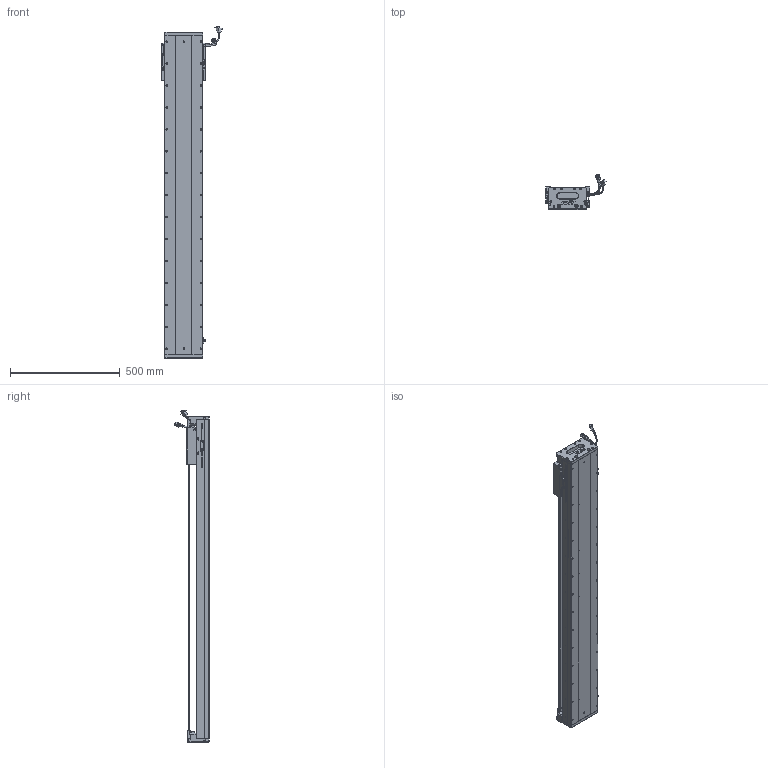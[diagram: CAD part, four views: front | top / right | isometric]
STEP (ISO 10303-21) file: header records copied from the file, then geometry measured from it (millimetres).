
FILE_DESCRIPTION (( 'STEP AP203' ), '1' );
FILE_NAME ('Z2-RY170D-1-L500-B-K.SLDASM_1200.step', '2021-05-17T09:07:46', ( '盈信电脑' ), ( '东莞市道滘镇水果街19号' ), 'SwSTEP 2.0', 'SolidWorks 2016', '' );
FILE_SCHEMA (( 'CONFIG_CONTROL_DESIGN' ));
Length unit declared in the file: millimetre
Products named in the file (36): Z-170詩湍傷裔啣; SCALE-Part-2; SCREW-M1.7-1; Z2-RY170臏賑輸(21遴); PSLH080_PSLF2; Z-RY170詩湍奻揤裔; 覜茼ん672; SEAL-Part-1; 080黍杅芛假蚾釱21遴; Z2-RY170-L500耀郪菁釱_1200; 140蚥薯蝶輸; 170-Z-臏賑輸盄裔(21遴); HARNESS-Part-2; HARNESS-Part-1; HARNESS; SCREW-M1.6-3; SCREW-M1.7; PBU_SHEET; LABEL-Part-1; SCALE-Part-1; Z2-RY170D-1-L500-B-K.SLDASM_1200; HOLDER0; SCREW-M1.6-1; SCALE; COVER; Z2-RY170-L500詩湍145mm遵_1200; LABEL; RY170直线电机感应器672光电感应片; SHIELDPLATE; 榋妏寠巭燃_暯_M2_2; COVER-Part-1; SCREW-M1.6-2; Z-RY170詩湍狟揤裔; SCREW-M1.6; 140雄赽晤鎢ん堤盄; SEAL
Assembly tree (41 placements, depth 4):
  Z2-RY170D-1-L500-B-K.SLDASM_1200
    Z2-RY170-L500耀郪菁釱_1200
    RY170直线电机感应器672光电感应片
    Z2-RY170臏賑輸(21遴)
    覜茼ん672  x3
    PSLH080_PSLF2
      SCALE
        SCALE-Part-1
        SCALE-Part-2
      HARNESS
        HARNESS-Part-1
        HARNESS-Part-2
      LABEL
        LABEL-Part-1
      COVER
        COVER-Part-1
      SEAL
        SEAL-Part-1
      榋妏寠巭燃_暯_M2_2
      SHIELDPLATE
      SCREW-M1.7
      SCREW-M1.7-1
      PBU_SHEET
      SCREW-M1.6
      SCREW-M1.6-1
      SCREW-M1.6-2
      SCREW-M1.6-3
      HOLDER0
    080黍杅芛假蚾釱21遴
    Z2-RY170-L500詩湍145mm遵_1200
    Z-170詩湍傷裔啣  x2
    Z-RY170詩湍奻揤裔  x2
    Z-RY170詩湍狟揤裔  x2
    140蚥薯蝶輸  x2
    170-Z-臏賑輸盄裔(21遴)
    140雄赽晤鎢ん堤盄
Bounding box: 275.34 x 158.11 x 1513.72 mm (x, y, z)
Volume: 7972796.5 mm3; surface area: 1957816.6 mm2
Topology: 36 solids, 36 shells, 3328 faces, 9027 edges, 5669 vertices
Faces by surface type: cylinder 1570, plane 1208, cone 428, torus 69, bspline 53
Entity records: 100287 total; most frequent: CARTESIAN_POINT 26542, ORIENTED_EDGE 14802, DIRECTION 14257, EDGE_CURVE 7401, AXIS2_PLACEMENT_3D 5226, VERTEX_POINT 4787, LINE 3805, VECTOR 3805
